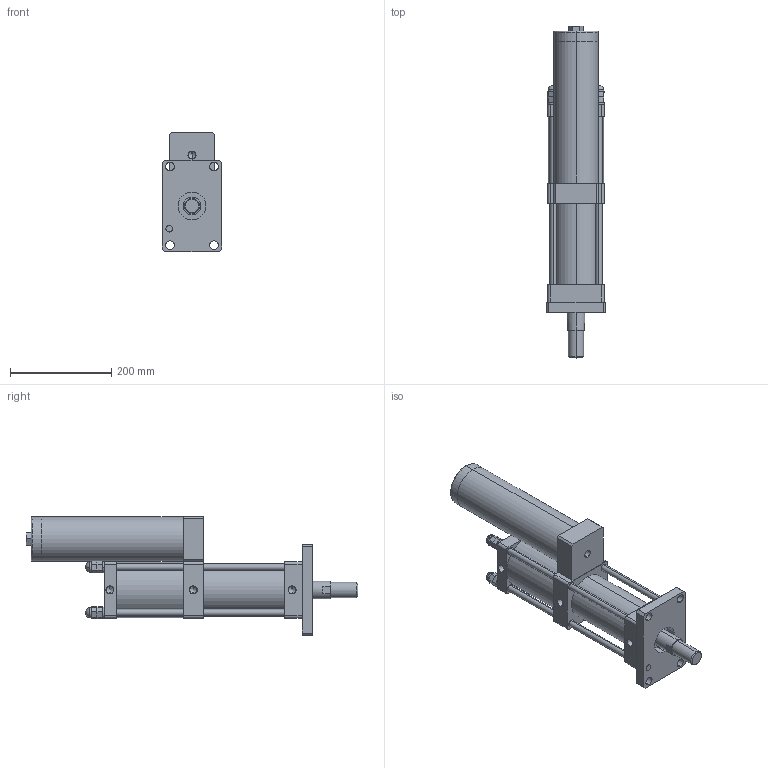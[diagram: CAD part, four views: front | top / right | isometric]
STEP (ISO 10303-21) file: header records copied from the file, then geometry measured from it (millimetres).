
FILE_DESCRIPTION (( 'STEP AP203' ), '1' );
FILE_NAME ('CPT-80-100-5-8T.STEP', '2016-03-11T03:06:14', ( 'WIN' ), ( '' ), 'SwSTEP 2.0', 'SolidWorks 2014', '' );
FILE_SCHEMA (( 'CONFIG_CONTROL_DESIGN' ));
Length unit declared in the file: millimetre
Products named in the file (1): CPT-80-100-5-8T
Bounding box: 118 x 655 x 235 mm (x, y, z)
Volume: 4752734.6 mm3; surface area: 587657.3 mm2
Topology: 17 solids, 17 shells, 389 faces, 959 edges, 560 vertices
Faces by surface type: plane 181, cylinder 90, bspline 48, torus 46, cone 24
Entity records: 12577 total; most frequent: CARTESIAN_POINT 3667, DIRECTION 1874, ORIENTED_EDGE 1786, EDGE_CURVE 893, AXIS2_PLACEMENT_3D 687, VERTEX_POINT 560, LINE 500, VECTOR 500
